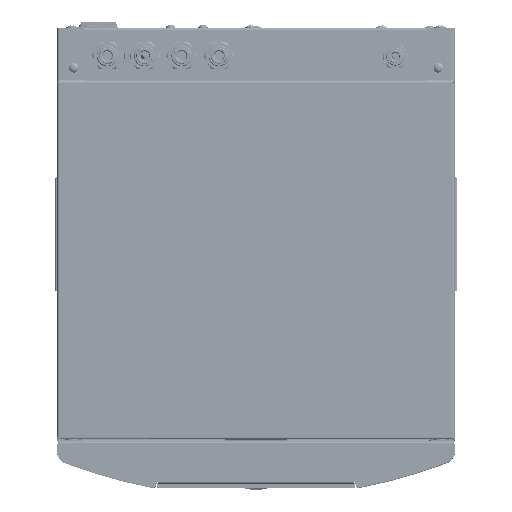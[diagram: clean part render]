
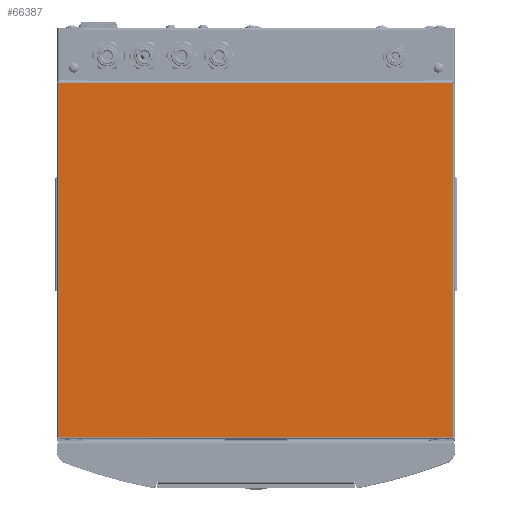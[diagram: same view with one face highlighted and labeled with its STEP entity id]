
A CAD part, top view. The second image highlights one B-rep face of the part: STEP entity #66387.
In plain terms, the highlighted planar face has unit normal (0, 0, 1).
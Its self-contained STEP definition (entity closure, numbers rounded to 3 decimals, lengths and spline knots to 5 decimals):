
#3951=LINE('',#128243,#9065);
#3952=LINE('',#128246,#9066);
#3953=LINE('',#128248,#9067);
#3954=LINE('',#128250,#9068);
#9065=VECTOR('',#83042,1.);
#9066=VECTOR('',#83043,1.);
#9067=VECTOR('',#83044,1.);
#9068=VECTOR('',#83045,1.);
#14728=PLANE('',#72345);
#25617=ORIENTED_EDGE('',*,*,#40206,.T.);
#25618=ORIENTED_EDGE('',*,*,#40207,.T.);
#25619=ORIENTED_EDGE('',*,*,#40208,.T.);
#25620=ORIENTED_EDGE('',*,*,#40209,.T.);
#40206=EDGE_CURVE('',#48325,#48326,#3951,.T.);
#40207=EDGE_CURVE('',#48326,#48327,#3952,.T.);
#40208=EDGE_CURVE('',#48327,#48328,#3953,.T.);
#40209=EDGE_CURVE('',#48328,#48325,#3954,.T.);
#48325=VERTEX_POINT('',#128244);
#48326=VERTEX_POINT('',#128245);
#48327=VERTEX_POINT('',#128247);
#48328=VERTEX_POINT('',#128249);
#56294=EDGE_LOOP('',(#25617,#25618,#25619,#25620));
#61029=FACE_BOUND('',#56294,.T.);
#66387=ADVANCED_FACE('',(#61029),#14728,.T.);
#72345=AXIS2_PLACEMENT_3D('',#128242,#83040,#83041);
#83040=DIRECTION('',(0.,0.,1.));
#83041=DIRECTION('',(0.,-1.,0.));
#83042=DIRECTION('',(0.,-1.,0.));
#83043=DIRECTION('',(1.,0.,0.));
#83044=DIRECTION('',(0.,1.,0.));
#83045=DIRECTION('',(-1.,0.,0.));
#128242=CARTESIAN_POINT('',(0.,0.,0.));
#128243=CARTESIAN_POINT('',(-0.1582,0.1435,0.));
#128244=CARTESIAN_POINT('',(-0.1582,0.1426,0.));
#128245=CARTESIAN_POINT('',(-0.1582,-0.1426,0.));
#128246=CARTESIAN_POINT('',(-0.1582,-0.1426,0.));
#128247=CARTESIAN_POINT('',(0.1582,-0.1426,0.));
#128248=CARTESIAN_POINT('',(0.1582,-0.1435,0.));
#128249=CARTESIAN_POINT('',(0.1582,0.1426,0.));
#128250=CARTESIAN_POINT('',(0.1582,0.1426,0.));
